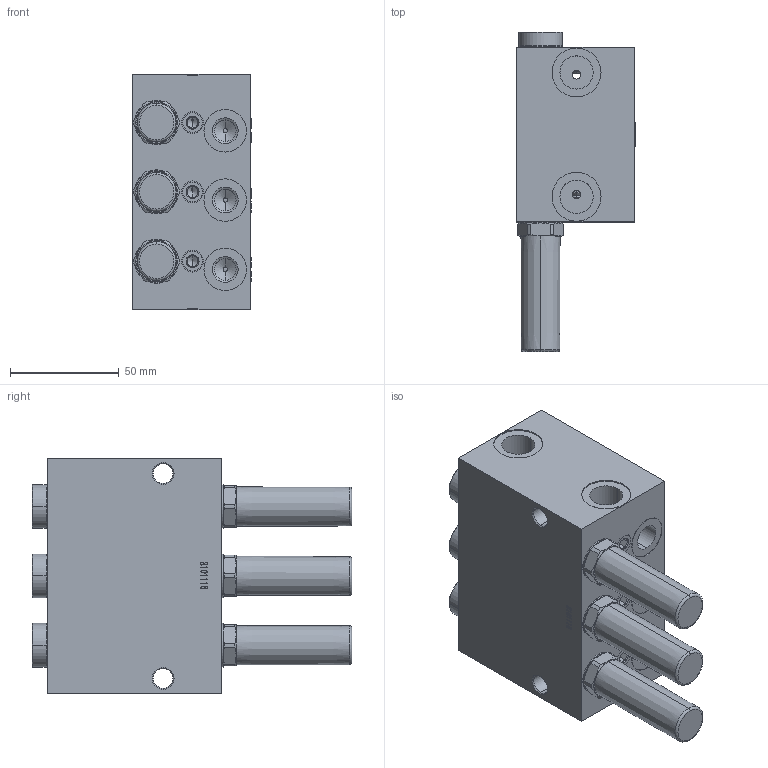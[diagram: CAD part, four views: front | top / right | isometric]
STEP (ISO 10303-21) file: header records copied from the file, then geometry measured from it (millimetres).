
FILE_DESCRIPTION (( 'STEP AP203' ), '1' );
FILE_NAME ('2101116.STEP', '2022-04-25T01:10:38', ( '' ), ( '' ), 'SwSTEP 2.0', 'SolidWorks 2016', '' );
FILE_SCHEMA (( 'CONFIG_CONTROL_DESIGN' ));
Products named in the file (1): 2101116
Bounding box: 54.5 x 146.5 x 108 mm (x, y, z)
Volume: 439978.1 mm3; surface area: 131607.8 mm2
Topology: 77 solids, 77 shells, 2164 faces, 5281 edges, 3317 vertices
Faces by surface type: cylinder 643, plane 625, cone 516, bspline 284, torus 84, sphere 12
Entity records: 100922 total; most frequent: CARTESIAN_POINT 52469, ORIENTED_EDGE 10442, DIRECTION 9381, EDGE_CURVE 5221, AXIS2_PLACEMENT_3D 3657, VERTEX_POINT 3299, EDGE_LOOP 2416, ADVANCED_FACE 2164
